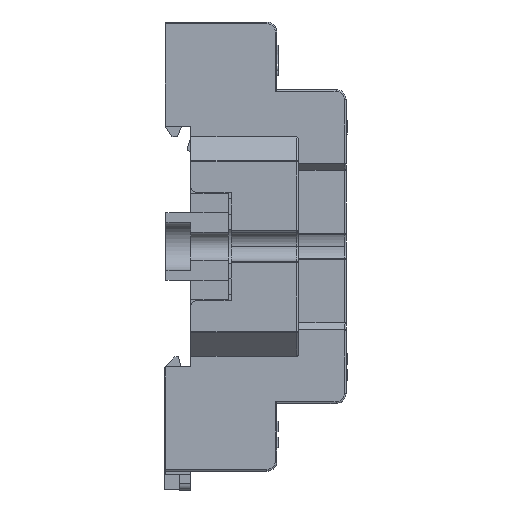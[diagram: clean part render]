
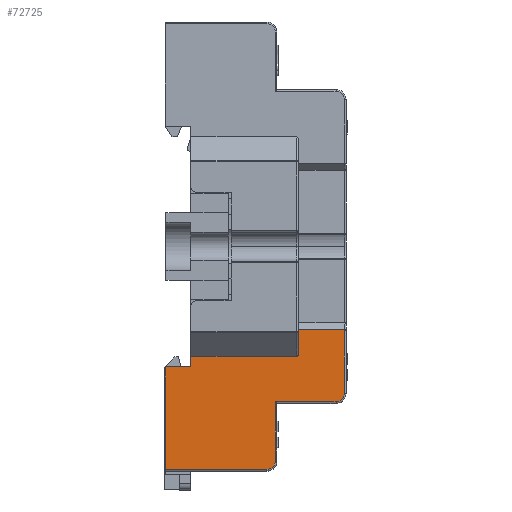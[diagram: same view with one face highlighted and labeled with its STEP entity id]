
A CAD part, front view. The second image highlights one B-rep face of the part: STEP entity #72725.
In plain terms, the highlighted planar face has unit normal (0, -1, 0).
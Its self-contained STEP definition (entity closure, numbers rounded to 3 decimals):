
#106 = AXIS2_PLACEMENT_3D ( 'NONE', #185699, #170732, #33000 ) ;
#1964 = ORIENTED_EDGE ( 'NONE', *, *, #57531, .T. ) ;
#3106 = CARTESIAN_POINT ( 'NONE',  ( 19.696, 0., 16.85 ) ) ;
#3245 = CARTESIAN_POINT ( 'NONE',  ( 25.4, 0., 10.05 ) ) ;
#5880 = CARTESIAN_POINT ( 'NONE',  ( 0., 0., 0. ) ) ;
#8218 = EDGE_CURVE ( 'NONE', #139777, #111737, #138265, .T. ) ;
#8437 = LINE ( 'NONE', #127273, #135036 ) ;
#12824 = CARTESIAN_POINT ( 'NONE',  ( 19.8, 0., 16.85 ) ) ;
#13045 = ORIENTED_EDGE ( 'NONE', *, *, #50049, .T. ) ;
#15595 = DIRECTION ( 'NONE',  ( 0., 0., 1. ) ) ;
#15710 = VERTEX_POINT ( 'NONE', #44215 ) ;
#17667 = ORIENTED_EDGE ( 'NONE', *, *, #81334, .F. ) ;
#20004 = VECTOR ( 'NONE', #194484, 1000. ) ;
#23495 = ORIENTED_EDGE ( 'NONE', *, *, #8218, .T. ) ;
#25364 = ORIENTED_EDGE ( 'NONE', *, *, #57666, .T. ) ;
#26807 = LINE ( 'NONE', #12824, #20004 ) ;
#30836 = ORIENTED_EDGE ( 'NONE', *, *, #61599, .T. ) ;
#33000 = DIRECTION ( 'NONE',  ( 0., 0., -1. ) ) ;
#33584 = AXIS2_PLACEMENT_3D ( 'NONE', #174746, #40970, #148747 ) ;
#34804 = CARTESIAN_POINT ( 'NONE',  ( 15.1, 0., 0. ) ) ;
#38641 = CARTESIAN_POINT ( 'NONE',  ( 0., 0., 15.25 ) ) ;
#40970 = DIRECTION ( 'NONE',  ( 0., -1., 0. ) ) ;
#41360 = VERTEX_POINT ( 'NONE', #145554 ) ;
#44185 = DIRECTION ( 'NONE',  ( 0., -1., 0. ) ) ;
#44215 = CARTESIAN_POINT ( 'NONE',  ( 0., 0., 15.25 ) ) ;
#44786 = EDGE_CURVE ( 'NONE', #165907, #133918, #192149, .T. ) ;
#48032 = CARTESIAN_POINT ( 'NONE',  ( 19.55, 0., 16.85 ) ) ;
#50021 = CARTESIAN_POINT ( 'NONE',  ( 19.55, 0., 16.85 ) ) ;
#50049 = EDGE_CURVE ( 'NONE', #41360, #161640, #111658, .T. ) ;
#50859 = VERTEX_POINT ( 'NONE', #127319 ) ;
#51481 = DIRECTION ( 'NONE',  ( 0., 0., 1. ) ) ;
#53470 = VERTEX_POINT ( 'NONE', #137492 ) ;
#53702 = VECTOR ( 'NONE', #115837, 1000. ) ;
#55774 = ORIENTED_EDGE ( 'NONE', *, *, #94094, .T. ) ;
#57531 = EDGE_CURVE ( 'NONE', #78332, #163492, #96368, .T. ) ;
#57666 = EDGE_CURVE ( 'NONE', #161640, #162323, #143784, .T. ) ;
#61599 = EDGE_CURVE ( 'NONE', #53470, #50859, #133460, .T. ) ;
#67984 = PLANE ( 'NONE',  #33584 ) ;
#69252 = VECTOR ( 'NONE', #99525, 1000. ) ;
#72512 = VECTOR ( 'NONE', #185871, 1000. ) ;
#72725 = ADVANCED_FACE ( 'NONE', ( #177688 ), #67984, .T. ) ;
#75218 = EDGE_CURVE ( 'NONE', #50859, #41360, #125029, .T. ) ;
#76450 = CARTESIAN_POINT ( 'NONE',  ( 3.8, 0., 15.25 ) ) ;
#78332 = VERTEX_POINT ( 'NONE', #78639 ) ;
#78639 = CARTESIAN_POINT ( 'NONE',  ( 19.8, 0., 17.201 ) ) ;
#79027 = ORIENTED_EDGE ( 'NONE', *, *, #180272, .T. ) ;
#79948 = CARTESIAN_POINT ( 'NONE',  ( 19.8, 0., 17.201 ) ) ;
#81334 = EDGE_CURVE ( 'NONE', #15710, #165907, #125554, .T. ) ;
#82317 = DIRECTION ( 'NONE',  ( 1., 0., 0. ) ) ;
#85888 = LINE ( 'NONE', #129865, #53702 ) ;
#94094 = EDGE_CURVE ( 'NONE', #163492, #133918, #26807, .T. ) ;
#94545 = EDGE_CURVE ( 'NONE', #111713, #162323, #8437, .T. ) ;
#96368 =( BOUNDED_CURVE ( )  B_SPLINE_CURVE ( 3, ( #79948, #169794, #3106, #48032 ),
 .UNSPECIFIED., .F., .F. ) 
 B_SPLINE_CURVE_WITH_KNOTS ( ( 4, 4 ),
 ( 1.571, 3.142 ),
 .UNSPECIFIED. ) 
 CURVE ( )  GEOMETRIC_REPRESENTATION_ITEM ( )  RATIONAL_B_SPLINE_CURVE ( ( 1., 0.805, 0.805, 1. ) ) 
 REPRESENTATION_ITEM ( '' )  );
#96668 = CARTESIAN_POINT ( 'NONE',  ( 19.8, 0., 20.8 ) ) ;
#99525 = DIRECTION ( 'NONE',  ( 1., 0., 0. ) ) ;
#104181 = ORIENTED_EDGE ( 'NONE', *, *, #112555, .T. ) ;
#105083 = DIRECTION ( 'NONE',  ( 0., 0., -1. ) ) ;
#107748 = CARTESIAN_POINT ( 'NONE',  ( 3.8, 0., 16.85 ) ) ;
#110853 = DIRECTION ( 'NONE',  ( 0., 0., 1. ) ) ;
#111658 = CIRCLE ( 'NONE', #106, 1.25 ) ;
#111713 = VERTEX_POINT ( 'NONE', #96668 ) ;
#111737 = VERTEX_POINT ( 'NONE', #34804 ) ;
#112555 = EDGE_CURVE ( 'NONE', #111737, #53470, #145695, .T. ) ;
#113350 = CARTESIAN_POINT ( 'NONE',  ( 3.8, 0., 66.55 ) ) ;
#113395 = ORIENTED_EDGE ( 'NONE', *, *, #168847, .F. ) ;
#114659 = ORIENTED_EDGE ( 'NONE', *, *, #94545, .F. ) ;
#114780 = CARTESIAN_POINT ( 'NONE',  ( 0., 0., -0.25 ) ) ;
#115837 = DIRECTION ( 'NONE',  ( 0., 0., -1. ) ) ;
#120058 = CARTESIAN_POINT ( 'NONE',  ( 15.1, 0., 1.25 ) ) ;
#122964 = ORIENTED_EDGE ( 'NONE', *, *, #75218, .T. ) ;
#123275 = CARTESIAN_POINT ( 'NONE',  ( 15.1, 0., 0. ) ) ;
#125029 = LINE ( 'NONE', #3245, #72512 ) ;
#125554 = LINE ( 'NONE', #38641, #69252 ) ;
#126083 = CARTESIAN_POINT ( 'NONE',  ( 26.65, 0., 11.3 ) ) ;
#127273 = CARTESIAN_POINT ( 'NONE',  ( -4.924, 0., 20.8 ) ) ;
#127319 = CARTESIAN_POINT ( 'NONE',  ( 16.35, 0., 10.05 ) ) ;
#129865 = CARTESIAN_POINT ( 'NONE',  ( 19.8, 0., 16.85 ) ) ;
#133460 = LINE ( 'NONE', #194288, #187455 ) ;
#133918 = VERTEX_POINT ( 'NONE', #107748 ) ;
#134587 = VECTOR ( 'NONE', #184122, 1000. ) ;
#135036 = VECTOR ( 'NONE', #82317, 1000. ) ;
#137492 = CARTESIAN_POINT ( 'NONE',  ( 16.35, 0., 1.25 ) ) ;
#138265 = LINE ( 'NONE', #123275, #134587 ) ;
#139777 = VERTEX_POINT ( 'NONE', #5880 ) ;
#143784 = LINE ( 'NONE', #192599, #170337 ) ;
#145554 = CARTESIAN_POINT ( 'NONE',  ( 25.4, 0., 10.05 ) ) ;
#145695 = CIRCLE ( 'NONE', #155245, 1.25 ) ;
#148747 = DIRECTION ( 'NONE',  ( -1., 0., 0. ) ) ;
#153647 = ORIENTED_EDGE ( 'NONE', *, *, #44786, .F. ) ;
#155245 = AXIS2_PLACEMENT_3D ( 'NONE', #120058, #44185, #105083 ) ;
#155253 = VECTOR ( 'NONE', #51481, 1000. ) ;
#158002 = CARTESIAN_POINT ( 'NONE',  ( 26.65, 0., 20.8 ) ) ;
#161640 = VERTEX_POINT ( 'NONE', #126083 ) ;
#162323 = VERTEX_POINT ( 'NONE', #158002 ) ;
#163492 = VERTEX_POINT ( 'NONE', #50021 ) ;
#165907 = VERTEX_POINT ( 'NONE', #76450 ) ;
#168847 = EDGE_CURVE ( 'NONE', #139777, #15710, #188647, .T. ) ;
#169794 = CARTESIAN_POINT ( 'NONE',  ( 19.8, 0., 16.995 ) ) ;
#170337 = VECTOR ( 'NONE', #189640, 1000. ) ;
#170732 = DIRECTION ( 'NONE',  ( 0., -1., 0. ) ) ;
#174746 = CARTESIAN_POINT ( 'NONE',  ( 0., 0., 66.55 ) ) ;
#177688 = FACE_OUTER_BOUND ( 'NONE', #185337, .T. ) ;
#180272 = EDGE_CURVE ( 'NONE', #111713, #78332, #85888, .T. ) ;
#182190 = VECTOR ( 'NONE', #110853, 1000. ) ;
#184122 = DIRECTION ( 'NONE',  ( 1., 0., 0. ) ) ;
#185337 = EDGE_LOOP ( 'NONE', ( #113395, #23495, #104181, #30836, #122964, #13045, #25364, #114659, #79027, #1964, #55774, #153647, #17667 ) ) ;
#185699 = CARTESIAN_POINT ( 'NONE',  ( 25.4, 0., 11.3 ) ) ;
#185871 = DIRECTION ( 'NONE',  ( 1., 0., 0. ) ) ;
#187455 = VECTOR ( 'NONE', #15595, 1000. ) ;
#188647 = LINE ( 'NONE', #114780, #182190 ) ;
#189640 = DIRECTION ( 'NONE',  ( 0., 0., 1. ) ) ;
#192149 = LINE ( 'NONE', #113350, #155253 ) ;
#192599 = CARTESIAN_POINT ( 'NONE',  ( 26.65, 0., 20.8 ) ) ;
#194288 = CARTESIAN_POINT ( 'NONE',  ( 16.35, 0., 9.8 ) ) ;
#194484 = DIRECTION ( 'NONE',  ( -1., 0., 0. ) ) ;
